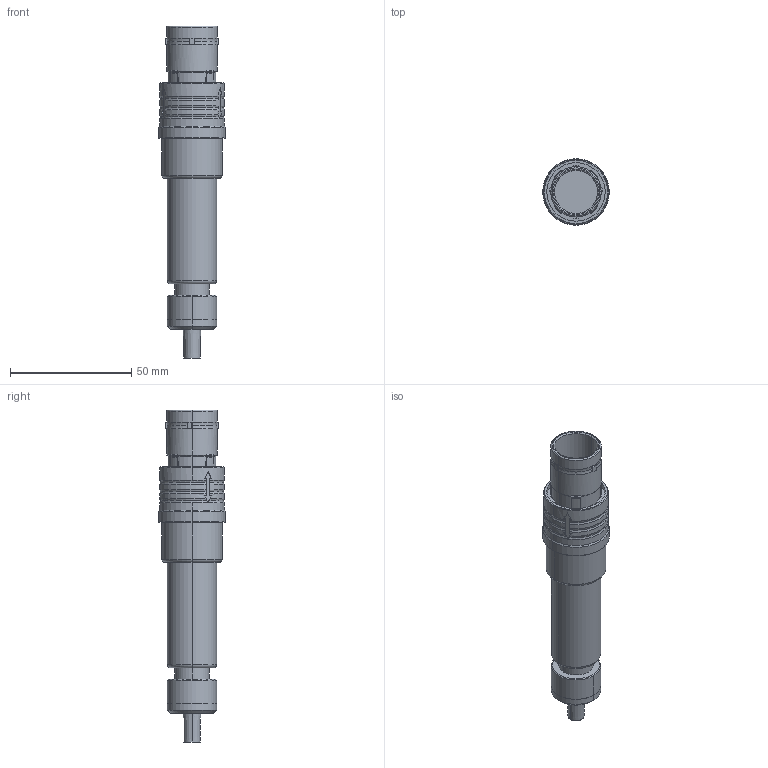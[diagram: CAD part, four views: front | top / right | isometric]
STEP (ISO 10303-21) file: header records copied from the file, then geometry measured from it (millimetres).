
FILE_DESCRIPTION (( 'STEP AP214' ), '1' );
FILE_NAME ('QSEAL-PEFX-XXCH-SXX - R4.STEP', '2025-04-03T23:29:16', ( '' ), ( '' ), 'SwSTEP 2.0', 'SolidWorks 2024', '' );
FILE_SCHEMA (( 'AUTOMOTIVE_DESIGN' ));
Length unit declared in the file: inch
Products named in the file (1): QSEAL-PEFX-XXCH-SXX - R4
Bounding box: 27.43 x 27.43 x 136.92 mm (x, y, z)
Volume: 41283.4 mm3; surface area: 13539.9 mm2
Topology: 1 solids, 1 shells, 222 faces, 560 edges, 349 vertices
Faces by surface type: plane 90, torus 48, cylinder 44, cone 40
Entity records: 7109 total; most frequent: CARTESIAN_POINT 1914, ORIENTED_EDGE 1120, DIRECTION 1074, EDGE_CURVE 560, AXIS2_PLACEMENT_3D 459, VERTEX_POINT 349, EDGE_LOOP 239, CIRCLE 236
